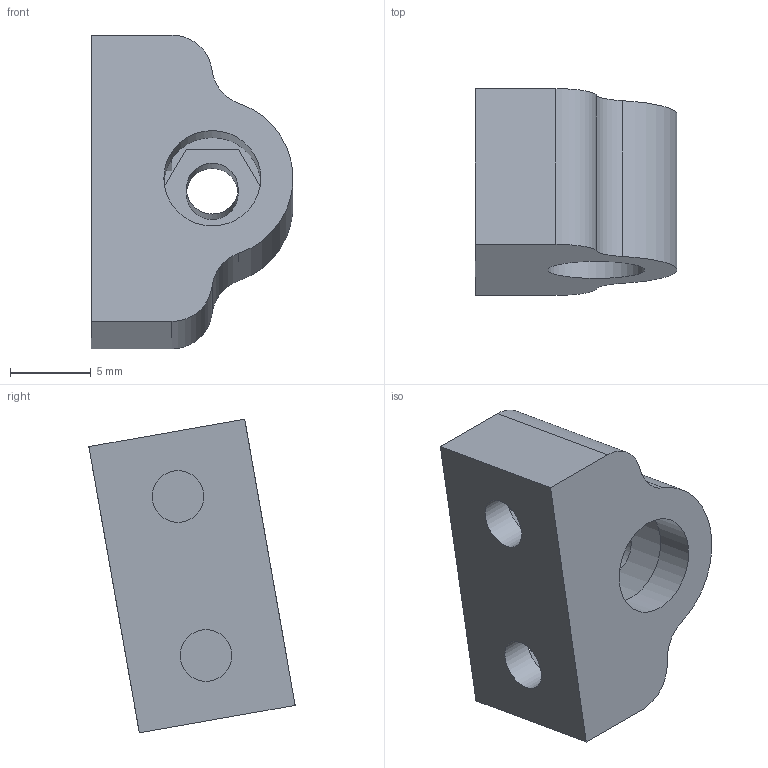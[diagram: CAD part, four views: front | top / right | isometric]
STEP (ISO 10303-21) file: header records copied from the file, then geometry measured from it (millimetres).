
FILE_DESCRIPTION(/* description */ (''),/* implementation_level */ '2;1');
FILE_NAME(/* name */ '4-04-4 Wishbone mount TPU.step',/* time_stamp */ '2025-05-10T22:16:41+02:00',/* author */ (''),/* organization */ (''),/* preprocessor_version */ 'ST-DEVELOPER v20.1',/* originating_system */ 'Autodesk Translation Framework v14.4.0.0',/* authorisation */ '');
FILE_SCHEMA (('AUTOMOTIVE_DESIGN { 1 0 10303 214 3 1 1 }'));
Length unit declared in the file: millimetre
Products named in the file (1): Wishbone mount TPU
Bounding box: 12.48 x 12.78 x 19.43 mm (x, y, z)
Volume: 1164.3 mm3; surface area: 1301.3 mm2
Topology: 1 solids, 1 shells, 38 faces, 92 edges, 61 vertices
Faces by surface type: plane 26, cylinder 11, cone 1
Full cylindrical faces by diameter (mm): 3.2 x5, 6 x1
Entity records: 1163 total; most frequent: DIRECTION 193, CARTESIAN_POINT 192, ORIENTED_EDGE 184, EDGE_CURVE 92, LINE 69, VECTOR 69, AXIS2_PLACEMENT_3D 62, VERTEX_POINT 61
